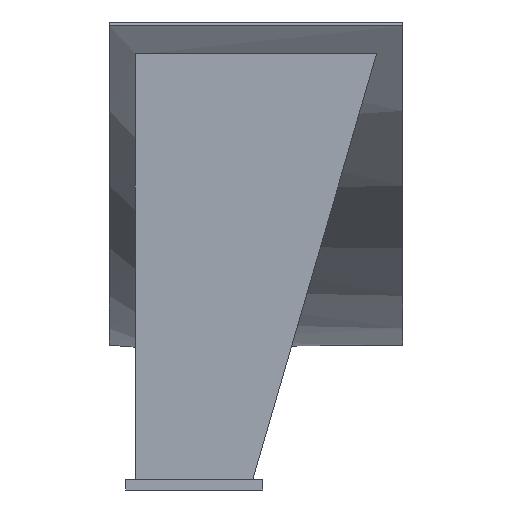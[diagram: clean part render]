
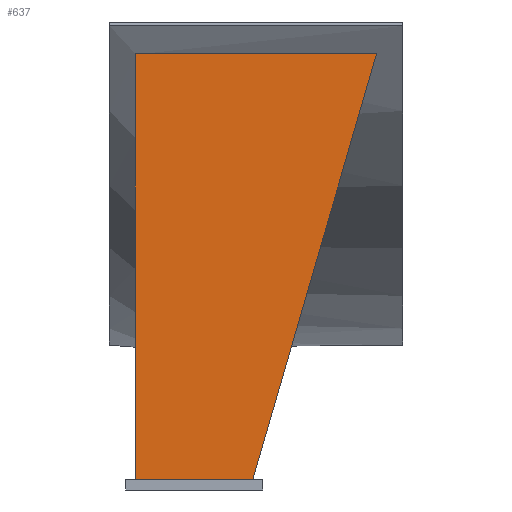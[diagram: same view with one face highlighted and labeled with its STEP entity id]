
A CAD part, front view. The second image highlights one B-rep face of the part: STEP entity #637.
In plain terms, the highlighted planar face has unit normal (0, -1, 0).
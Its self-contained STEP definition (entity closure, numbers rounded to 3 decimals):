
#55=FACE_OUTER_BOUND('',#89,.T.);
#89=EDGE_LOOP('',(#479,#480,#481,#482));
#150=LINE('',#993,#226);
#154=LINE('',#1001,#230);
#155=LINE('',#1003,#231);
#156=LINE('',#1004,#232);
#226=VECTOR('',#810,10.);
#230=VECTOR('',#816,10.);
#231=VECTOR('',#817,10.);
#232=VECTOR('',#818,10.);
#297=VERTEX_POINT('',#991);
#298=VERTEX_POINT('',#992);
#301=VERTEX_POINT('',#1000);
#302=VERTEX_POINT('',#1002);
#366=EDGE_CURVE('',#297,#298,#150,.T.);
#370=EDGE_CURVE('',#301,#298,#154,.T.);
#371=EDGE_CURVE('',#302,#301,#155,.T.);
#372=EDGE_CURVE('',#297,#302,#156,.T.);
#479=ORIENTED_EDGE('',*,*,#366,.T.);
#480=ORIENTED_EDGE('',*,*,#370,.F.);
#481=ORIENTED_EDGE('',*,*,#371,.F.);
#482=ORIENTED_EDGE('',*,*,#372,.F.);
#605=PLANE('',#699);
#637=ADVANCED_FACE('',(#55),#605,.T.);
#699=AXIS2_PLACEMENT_3D('',#999,#814,#815);
#810=DIRECTION('',(0.279,0.,0.96));
#814=DIRECTION('center_axis',(0.,-1.,0.));
#815=DIRECTION('ref_axis',(0.,0.,
-1.));
#816=DIRECTION('',(1.,0.,0.));
#817=DIRECTION('',(0.,0.,1.));
#818=DIRECTION('',(-1.,0.,0.));
#991=CARTESIAN_POINT('',(90.,-837.,16.));
#992=CARTESIAN_POINT('',(280.,-837.,669.212));
#993=CARTESIAN_POINT('',(170.569,-837.,292.993));
#999=CARTESIAN_POINT('Origin',(-90.,-837.,669.212));
#1000=CARTESIAN_POINT('',(-90.,-837.,669.212));
#1001=CARTESIAN_POINT('',(-90.,-837.,669.212));
#1002=CARTESIAN_POINT('',(-90.,-837.,16.));
#1003=CARTESIAN_POINT('',(-90.,-837.,16.));
#1004=CARTESIAN_POINT('',(-45.,-837.,16.));
